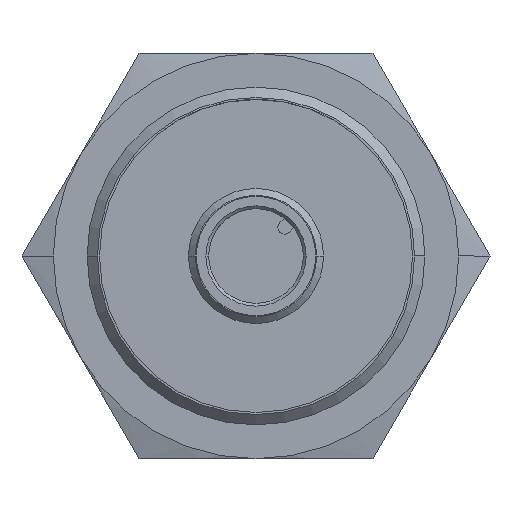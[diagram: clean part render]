
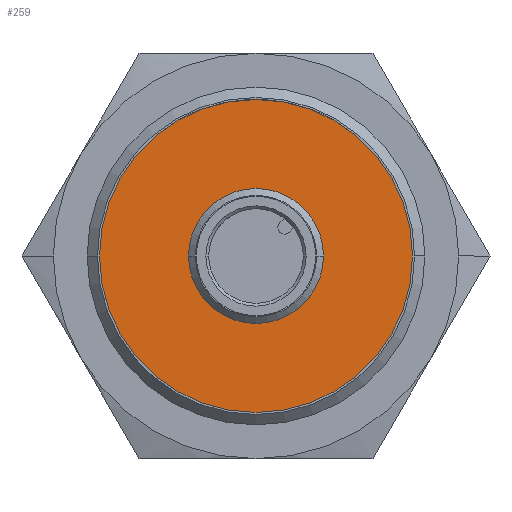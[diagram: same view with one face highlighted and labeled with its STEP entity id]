
A CAD part, left-side view. The second image highlights one B-rep face of the part: STEP entity #259.
In plain terms, the highlighted planar face has unit normal (-1, 0, 0).
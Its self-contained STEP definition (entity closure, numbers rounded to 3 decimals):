
#259 = ADVANCED_FACE( '', ( #525, #526 ), #527, .T. );
#525 = FACE_OUTER_BOUND( '', #883, .T. );
#526 = FACE_BOUND( '', #884, .T. );
#527 = PLANE( '', #885 );
#883 = EDGE_LOOP( '', ( #1746, #1747 ) );
#884 = EDGE_LOOP( '', ( #1748, #1749 ) );
#885 = AXIS2_PLACEMENT_3D( '', #1750, #1751, #1752 );
#1746 = ORIENTED_EDGE( '', *, *, #2365, .T. );
#1747 = ORIENTED_EDGE( '', *, *, #2585, .T. );
#1748 = ORIENTED_EDGE( '', *, *, #2436, .F. );
#1749 = ORIENTED_EDGE( '', *, *, #2475, .F. );
#1750 = CARTESIAN_POINT( '', ( 12.9, 6.95, 0. ) );
#1751 = DIRECTION( '', ( -1., 0., 0. ) );
#1752 = DIRECTION( '', ( 0., 1., 0. ) );
#2365 = EDGE_CURVE( '', #2767, #2771, #2773, .T. );
#2436 = EDGE_CURVE( '', #2901, #2903, #2904, .T. );
#2475 = EDGE_CURVE( '', #2903, #2901, #2965, .T. );
#2585 = EDGE_CURVE( '', #2771, #2767, #3139, .T. );
#2767 = VERTEX_POINT( '', #3403 );
#2771 = VERTEX_POINT( '', #3408 );
#2773 = CIRCLE( '', #3411, 13.9 );
#2901 = VERTEX_POINT( '', #3640 );
#2903 = VERTEX_POINT( '', #3643 );
#2904 = CIRCLE( '', #3644, 5.65 );
#2965 = CIRCLE( '', #3914, 5.65 );
#3139 = CIRCLE( '', #4237, 13.9 );
#3403 = CARTESIAN_POINT( '', ( 12.9, 13.9, 0. ) );
#3408 = CARTESIAN_POINT( '', ( 12.9, -13.9, 0. ) );
#3411 = AXIS2_PLACEMENT_3D( '', #4959, #4960, #4961 );
#3640 = CARTESIAN_POINT( '', ( 12.9, 5.65, 0. ) );
#3643 = CARTESIAN_POINT( '', ( 12.9, -5.65, 0. ) );
#3644 = AXIS2_PLACEMENT_3D( '', #5092, #5093, #5094 );
#3914 = AXIS2_PLACEMENT_3D( '', #5136, #5137, #5138 );
#4237 = AXIS2_PLACEMENT_3D( '', #5323, #5324, #5325 );
#4959 = CARTESIAN_POINT( '', ( 12.9, 0., 0. ) );
#4960 = DIRECTION( '', ( -1., 0., 0. ) );
#4961 = DIRECTION( '', ( 0., 1., 0. ) );
#5092 = CARTESIAN_POINT( '', ( 12.9, 0., 0. ) );
#5093 = DIRECTION( '', ( -1., 0., 0. ) );
#5094 = DIRECTION( '', ( 0., 1., 0. ) );
#5136 = CARTESIAN_POINT( '', ( 12.9, 0., 0. ) );
#5137 = DIRECTION( '', ( -1., 0., 0. ) );
#5138 = DIRECTION( '', ( 0., 1., 0. ) );
#5323 = CARTESIAN_POINT( '', ( 12.9, 0., 0. ) );
#5324 = DIRECTION( '', ( -1., 0., 0. ) );
#5325 = DIRECTION( '', ( 0., 1., 0. ) );
